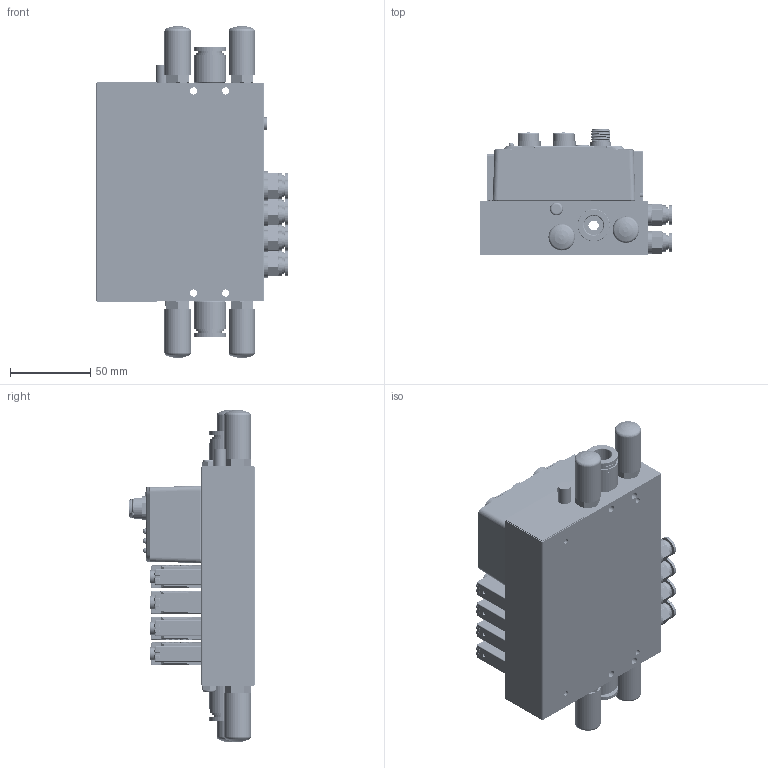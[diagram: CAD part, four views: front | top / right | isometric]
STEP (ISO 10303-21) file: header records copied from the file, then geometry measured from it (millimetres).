
FILE_DESCRIPTION(/* description */ (''),/* implementation_level */ '2;1');
FILE_NAME(/* name */ 'EV-XX-F2-4-X-XX-XX-A-X-C.stp',/* time_stamp */ '2025-09-30T10:22:13+08:00',/* author */ (''),/* organization */ (''),/* preprocessor_version */ 'ST-DEVELOPER v19.4',/* originating_system */ 'SIEMENS PLM Software NX2212.7001',/* authorisation */ '');
FILE_SCHEMA (('AUTOMOTIVE_DESIGN { 1 0 10303 214 3 1 1 1 }'));
Products named in the file (1): EV-EC-F2-A1B9X2-L-12-06-A-I-C_objects
Bounding box: 119.9 x 78.8 x 207 mm (x, y, z)
Volume: 627301.7 mm3; surface area: 190808.9 mm2
Topology: 20 solids, 37 shells, 4592 faces, 11758 edges, 7465 vertices
Faces by surface type: cylinder 1893, plane 1840, torus 401, cone 211, bspline 149, sphere 96, extrusion 2
Full cylindrical faces by diameter (mm): 1 x5, 1.05 x5, 1.2 x8, 1.4 x4, 1.5 x4, 1.7 x8, 2.05 x12, 2.15 x2, 2.3 x4, 2.48 x4, 2.5 x3, 2.8 x4, 3.3 x2, 3.446 x6, 3.5 x7, 3.7 x1, 4 x2, 4.134 x5, 4.3 x4, 4.5 x4, 5.1 x8, 5.3 x8, 5.4 x2, 5.5 x26, 6 x1, 6.2 x16, 8 x9, 8.1 x8, 8.3 x1, 8.566 x5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
Entity records: 172693 total; most frequent: CARTESIAN_POINT 39758, DIRECTION 23706, ORIENTED_EDGE 22458, EDGE_CURVE 11229, AXIS2_PLACEMENT_3D 8996, VERTEX_POINT 7294, VECTOR 5714, LINE 5712
